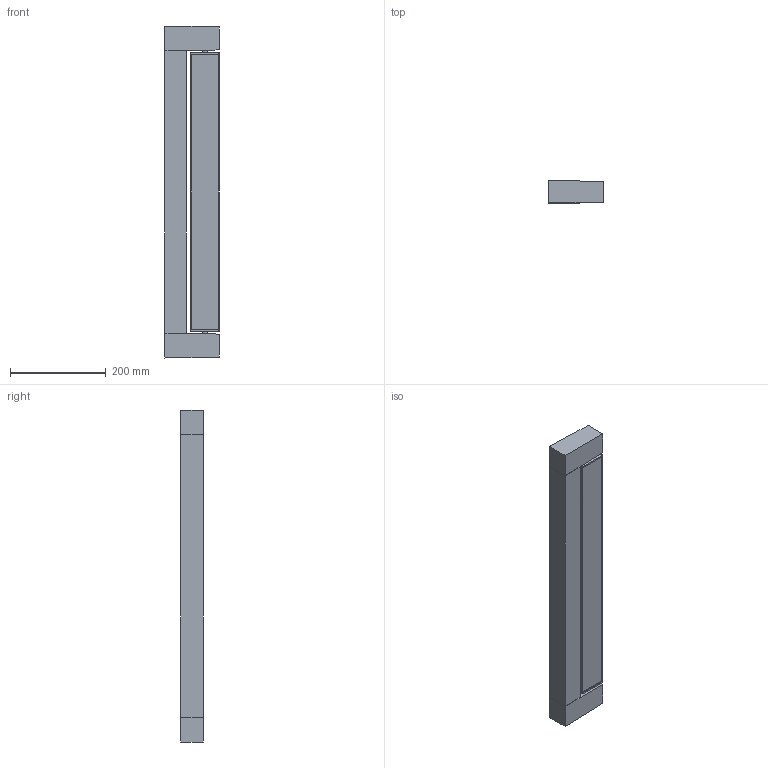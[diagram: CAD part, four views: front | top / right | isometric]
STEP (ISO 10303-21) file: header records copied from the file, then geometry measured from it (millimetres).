
FILE_DESCRIPTION (( 'STEP AP214' ), '1' );
FILE_NAME ('3D_ARA_WALL_69.STEP', '2018-03-12T11:03:18', ( 'Utente' ), ( '' ), 'SwSTEP 2.0', 'SolidWorks 2016', '' );
FILE_SCHEMA (( 'AUTOMOTIVE_DESIGN' ));
Length unit declared in the file: millimetre
Products named in the file (5): Group4^3D_ARA_WALL_69; Group3^3D_ARA_WALL_69; Group2^3D_ARA_WALL_69; Group1^3D_ARA_WALL_69; 3D_ARA_WALL_69
Assembly tree (4 placements, depth 2):
  3D_ARA_WALL_69
    Group1^3D_ARA_WALL_69
    Group2^3D_ARA_WALL_69
    Group3^3D_ARA_WALL_69
    Group4^3D_ARA_WALL_69
Bounding box: 113 x 46.94 x 692.99 mm (x, y, z)
Volume: 2028379.4 mm3; surface area: 422047.9 mm2
Topology: 9 solids, 9 shells, 109 faces, 258 edges, 172 vertices
Faces by surface type: plane 87, cylinder 22
Entity records: 3357 total; most frequent: CARTESIAN_POINT 552, DIRECTION 530, ORIENTED_EDGE 516, EDGE_CURVE 258, VECTOR 214, LINE 214, VERTEX_POINT 172, AXIS2_PLACEMENT_3D 158
